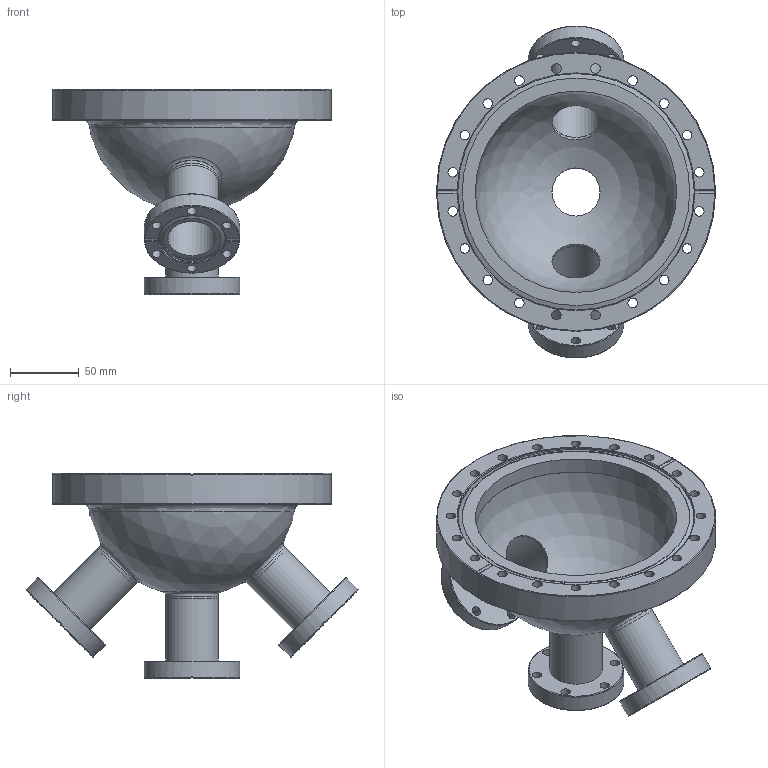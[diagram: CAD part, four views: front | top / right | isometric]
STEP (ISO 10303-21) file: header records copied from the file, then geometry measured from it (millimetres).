
FILE_DESCRIPTION(/* description */ ('STEP AP203'),/* implementation_level */ '2;1');
FILE_NAME(/* name */ 'Bottom Part Fusor.step',/* time_stamp */ '2024-11-04T15:30:14-06:00',/* author */ (''),/* organization */ (''),/* preprocessor_version */ 'ST-DEVELOPER v20',/* originating_system */ 'Autodesk Translation Framework v13.20.0.188',/* authorisation */ '');
FILE_SCHEMA (('AUTOMOTIVE_DESIGN { 1 0 10303 214 3 1 1 }'));
Length unit declared in the file: inch
Products named in the file (1): P102207
Bounding box: 202.39 x 240.76 x 148.71 mm (x, y, z)
Volume: 570381.7 mm3; surface area: 225958.1 mm2
Topology: 9 solids, 9 shells, 207 faces, 493 edges, 274 vertices
Faces by surface type: cylinder 92, sphere 35, plane 27, torus 24, bspline 16, cone 13
Full cylindrical faces by diameter (mm): 6.731 x18, 6.909 x20, 34.844 x1, 34.849 x3, 34.925 x4, 38.1 x6, 41.91 x3, 48.311 x3, 69.342 x3, 146.05 x1, 148.648 x1, 152.4 x1, 163.918 x1, 165.049 x1, 171.45 x1, 202.387 x1
Entity records: 7417 total; most frequent: CARTESIAN_POINT 2519, DIRECTION 1101, ORIENTED_EDGE 922, AXIS2_PLACEMENT_3D 494, EDGE_CURVE 461, EDGE_LOOP 307, CIRCLE 302, VERTEX_POINT 274
